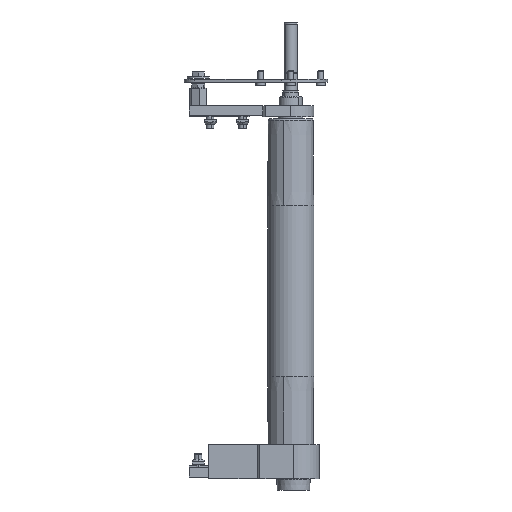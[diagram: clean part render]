
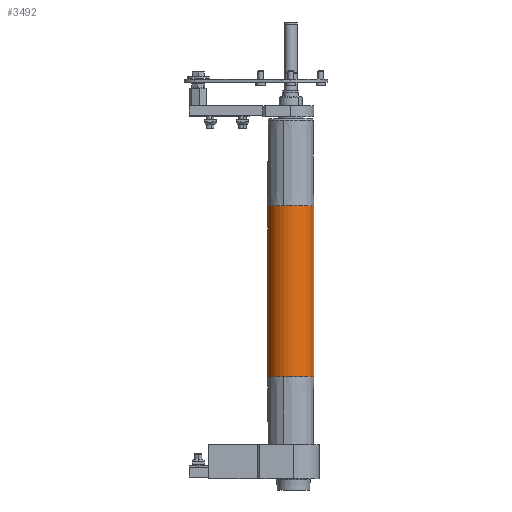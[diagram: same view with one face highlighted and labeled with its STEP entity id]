
A CAD part, front view. The second image highlights one B-rep face of the part: STEP entity #3492.
In plain terms, the highlighted cylindrical face has radius 25 mm (diameter 50 mm), a partial arc.
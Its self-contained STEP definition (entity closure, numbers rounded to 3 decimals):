
#1470 = AXIS2_PLACEMENT_3D ( 'NONE', #12980, #18012, #12759 ) ;
#1490 = CIRCLE ( 'NONE', #12910, 25. ) ;
#1957 = AXIS2_PLACEMENT_3D ( 'NONE', #2891, #6457, #4743 ) ;
#2081 = VERTEX_POINT ( 'NONE', #2237 ) ;
#2145 = VERTEX_POINT ( 'NONE', #16455 ) ;
#2237 = CARTESIAN_POINT ( 'NONE',  ( -92.5, 25., 0. ) ) ;
#2247 = VERTEX_POINT ( 'NONE', #21774 ) ;
#2363 = CIRCLE ( 'NONE', #12286, 25. ) ;
#2891 = CARTESIAN_POINT ( 'NONE',  ( 92.5, 0., 0. ) ) ;
#3015 = CARTESIAN_POINT ( 'NONE',  ( 185., 0., -25. ) ) ;
#3491 = VECTOR ( 'NONE', #8270, 1000. ) ;
#3492 = ADVANCED_FACE ( 'NONE', ( #8282 ), #14011, .T. ) ;
#3509 = DIRECTION ( 'NONE',  ( 0., -1., 0. ) ) ;
#3826 = CARTESIAN_POINT ( 'NONE',  ( -92.5, 0., 0. ) ) ;
#3940 = CIRCLE ( 'NONE', #1470, 25. ) ;
#4743 = DIRECTION ( 'NONE',  ( 0., -1., 0. ) ) ;
#5103 = ORIENTED_EDGE ( 'NONE', *, *, #22313, .F. ) ;
#5516 = ORIENTED_EDGE ( 'NONE', *, *, #18251, .T. ) ;
#6457 = DIRECTION ( 'NONE',  ( -1., 0., 0. ) ) ;
#6909 = EDGE_CURVE ( 'NONE', #2247, #2145, #3940, .T. ) ;
#6984 = CARTESIAN_POINT ( 'NONE',  ( 185., 0., 0. ) ) ;
#7274 = ORIENTED_EDGE ( 'NONE', *, *, #8785, .T. ) ;
#7725 = CIRCLE ( 'NONE', #1957, 25. ) ;
#8005 = ORIENTED_EDGE ( 'NONE', *, *, #13467, .F. ) ;
#8270 = DIRECTION ( 'NONE',  ( -1., 0., 0. ) ) ;
#8282 = FACE_OUTER_BOUND ( 'NONE', #19045, .T. ) ;
#8459 = CARTESIAN_POINT ( 'NONE',  ( -92.5, 0., 0. ) ) ;
#8684 = DIRECTION ( 'NONE',  ( -1., 0., 0. ) ) ;
#8785 = EDGE_CURVE ( 'NONE', #12350, #2247, #7725, .T. ) ;
#8804 = DIRECTION ( 'NONE',  ( -1., 0., 0. ) ) ;
#9124 = VERTEX_POINT ( 'NONE', #21649 ) ;
#10917 = EDGE_CURVE ( 'NONE', #22789, #2081, #2363, .T. ) ;
#12286 = AXIS2_PLACEMENT_3D ( 'NONE', #8459, #8684, #3509 ) ;
#12350 = VERTEX_POINT ( 'NONE', #22255 ) ;
#12741 = AXIS2_PLACEMENT_3D ( 'NONE', #6984, #8804, #22641 ) ;
#12759 = DIRECTION ( 'NONE',  ( 0., -1., 0. ) ) ;
#12910 = AXIS2_PLACEMENT_3D ( 'NONE', #3826, #16132, #12928 ) ;
#12928 = DIRECTION ( 'NONE',  ( 0., -1., 0. ) ) ;
#12980 = CARTESIAN_POINT ( 'NONE',  ( 92.5, 0., 0. ) ) ;
#13313 = VECTOR ( 'NONE', #15954, 1000. ) ;
#13467 = EDGE_CURVE ( 'NONE', #2081, #9124, #1490, .T. ) ;
#14011 = CYLINDRICAL_SURFACE ( 'NONE', #12741, 25. ) ;
#15954 = DIRECTION ( 'NONE',  ( -1., 0., 0. ) ) ;
#16132 = DIRECTION ( 'NONE',  ( -1., 0., 0. ) ) ;
#16455 = CARTESIAN_POINT ( 'NONE',  ( 92.5, 0., -25. ) ) ;
#17204 = ORIENTED_EDGE ( 'NONE', *, *, #10917, .F. ) ;
#18012 = DIRECTION ( 'NONE',  ( -1., 0., 0. ) ) ;
#18251 = EDGE_CURVE ( 'NONE', #2145, #9124, #21364, .T. ) ;
#18583 = LINE ( 'NONE', #21335, #13313 ) ;
#19045 = EDGE_LOOP ( 'NONE', ( #7274, #19365, #5516, #8005, #17204, #5103 ) ) ;
#19365 = ORIENTED_EDGE ( 'NONE', *, *, #6909, .T. ) ;
#19401 = CARTESIAN_POINT ( 'NONE',  ( -92.5, 0., 25. ) ) ;
#21335 = CARTESIAN_POINT ( 'NONE',  ( 185., 0., 25. ) ) ;
#21364 = LINE ( 'NONE', #3015, #3491 ) ;
#21649 = CARTESIAN_POINT ( 'NONE',  ( -92.5, 0., -25. ) ) ;
#21774 = CARTESIAN_POINT ( 'NONE',  ( 92.5, 25., 0. ) ) ;
#22255 = CARTESIAN_POINT ( 'NONE',  ( 92.5, 0., 25. ) ) ;
#22313 = EDGE_CURVE ( 'NONE', #12350, #22789, #18583, .T. ) ;
#22641 = DIRECTION ( 'NONE',  ( 0., 0., 1. ) ) ;
#22789 = VERTEX_POINT ( 'NONE', #19401 ) ;
